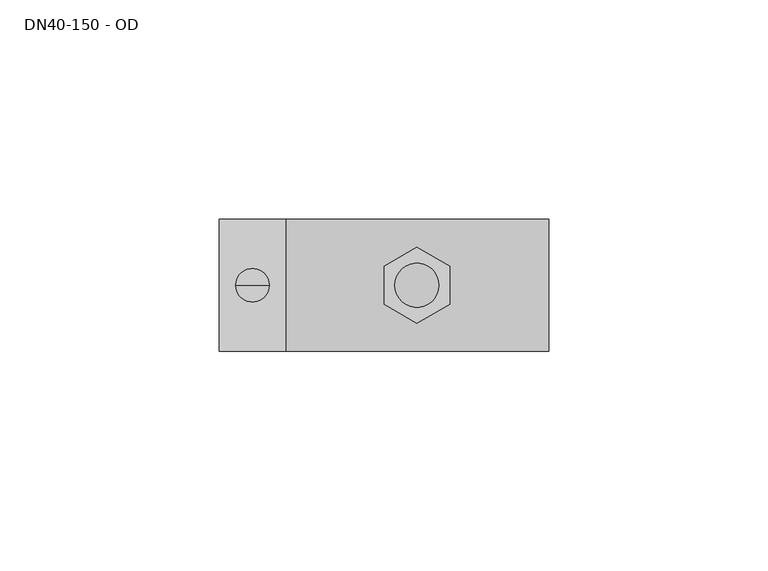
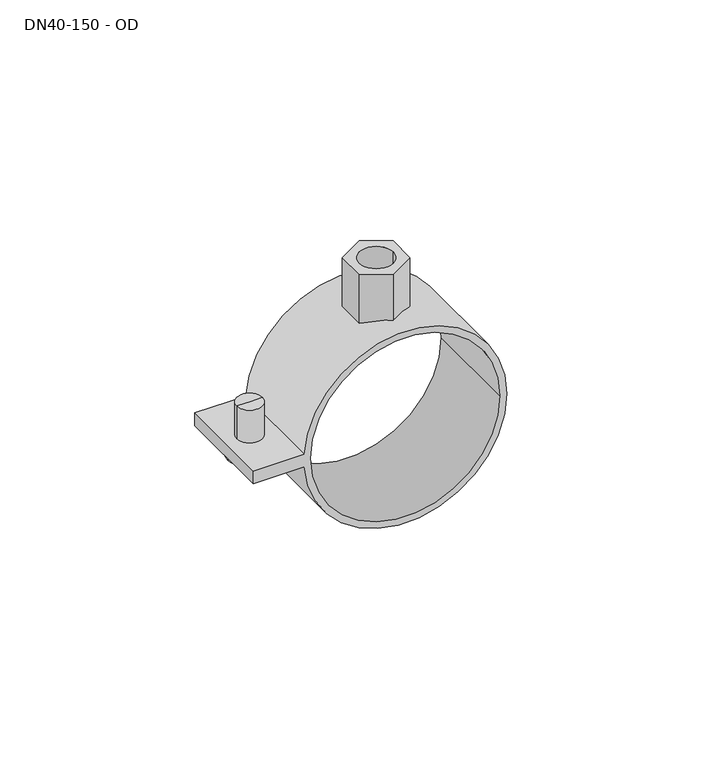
"""IFC4 building model written with IfcOpenShell, lengths in millimetres: unitary equipment geometry, NLRS_52_ME_UN_Geberit beugel met draadbus M10, verstelbaar_PRO_101657 : DN40-150 - OD."""

from ifc_helpers import new_model, si_unit, point, frame, origin, origin_2d, place, context, project, spatial, polyline, circle_curve, trimmed, segment, composite_curve, outline, extrude, source, transform, mapped, element, save
from ifc_brep_helpers import plane_surface, cylinder_surface, advanced_brep


def dn40_150_od_541becb6(model_context):
    return source(origin(), model_context, "Body", "SolidModel", [
        extrude(outline(polyline([(-7.5, -4.330127), (-7.5, 4.330127), (0.0, 8.660254), (7.5, 4.330127), (7.5, -4.330127), (0.0, -8.660254), (-7.5, -4.330127)]), holes=[composite_curve([segment(trimmed(circle_curve(origin_2d(), 5.0), [point((-5.0, 0.0))], [point((5.0, 0.0))], True, "CARTESIAN"), True, "CONTINUOUS"), segment(trimmed(circle_curve(origin_2d(), 5.0), [point((5.0, 0.0))], [point((-5.0, 0.0))], True, "CARTESIAN"), True, "CONTINUOUS")], self_intersect=False)]), frame((0.0, 0.0, 28.0), z_axis=(0.0, 0.0, 1.0), x_axis=(1.0, 0.0, 0.0)), (0.0, 0.0, 1.0), 16.0),
        advanced_brep(
        [(-33.7, 0.0, 12.0), (-41.3, 0.0, 12.0), (-37.5, 0.0, 12.0), (-33.7, 0.0, -2.0), (-41.3, 0.0, -2.0), (-31.0, 0.0, -2.0), (-44.0, 0.0, -2.0), (-31.0, 0.0, -4.0), (-44.0, 0.0, -4.0), (-37.5, 0.0, -4.0)],
        [
            (0, 1, circle_curve(frame((-37.5, 0.0, 12.0), z_axis=(0.0, 0.0, 1.0), x_axis=(-1.0, 0.0, 0.0)), 3.8)),
            (1, 2),
            (2, 0),
            (1, 0, circle_curve(frame((-37.5, 0.0, 12.0), z_axis=(0.0, 0.0, 1.0), x_axis=(-1.0, 0.0, 0.0)), 3.8)),
            (3, 4, circle_curve(frame((-37.5, 0.0, -2.0), z_axis=(0.0, 0.0, 1.0), x_axis=(-1.0, 0.0, 0.0)), 3.8)),
            (4, 1),
            (0, 3),
            (4, 3, circle_curve(frame((-37.5, 0.0, -2.0), z_axis=(0.0, 0.0, 1.0), x_axis=(-1.0, 0.0, 0.0)), 3.8)),
            (5, 6, circle_curve(frame((-37.5, 0.0, -2.0), z_axis=(0.0, 0.0, 1.0), x_axis=(-1.0, 0.0, 0.0)), 6.5)),
            (6, 4),
            (3, 5),
            (6, 5, circle_curve(frame((-37.5, 0.0, -2.0), z_axis=(0.0, 0.0, 1.0), x_axis=(-1.0, 0.0, 0.0)), 6.5)),
            (7, 8, circle_curve(frame((-37.5, 0.0, -4.0), z_axis=(0.0, 0.0, 1.0), x_axis=(-1.0, 0.0, 0.0)), 6.5)),
            (8, 6),
            (5, 7),
            (8, 7, circle_curve(frame((-37.5, 0.0, -4.0), z_axis=(0.0, 0.0, 1.0), x_axis=(-1.0, 0.0, 0.0)), 6.5)),
            (9, 8),
            (7, 9),
        ],
        [
            plane_surface(frame((-37.5, 0.0, 12.0), z_axis=(0.0, 0.0, 1.0), x_axis=(-1.0, 0.0, 0.0))),
            cylinder_surface(frame((-37.5, 0.0, 45.7821155), z_axis=(0.0, 0.0, -1.0), x_axis=(-1.0, 0.0, 0.0)), 3.8),
            plane_surface(frame((-37.5, 0.0, -2.0), z_axis=(0.0, 0.0, 1.0), x_axis=(-1.0, 0.0, 0.0))),
            cylinder_surface(frame((-37.5, 0.0, 45.7821155), z_axis=(0.0, 0.0, -1.0), x_axis=(-1.0, 0.0, 0.0)), 6.5),
            plane_surface(frame((-37.5, 0.0, -4.0), z_axis=(0.0, 0.0, -1.0), x_axis=(-1.0, 0.0, 0.0))),
        ],
        [
            (0, [[1, 2, 3]]),
            (0, [[4, -3, -2]]),
            (1, [[5, 6, -1, 7]]),
            (1, [[8, -7, -4, -6]]),
            (2, [[9, 10, -5, 11]]),
            (2, [[12, -11, -8, -10]]),
            (3, [[13, 14, -9, 15]]),
            (3, [[16, -15, -12, -14]]),
            (4, [[17, -13, 18]]),
            (4, [[-18, -16, -17]]),
        ],
    ),
        extrude(outline(composite_curve([segment(polyline([(2.0, -29.9332591), (2.0, -45.0), (-2.0, -45.0), (-2.0, -29.9332591)]), True, "CONTINUOUS"), segment(trimmed(circle_curve(origin_2d(), 30.0), [point((-2.0, -29.9332591))], [point((0.0, 30.0))], False, "CARTESIAN"), True, "CONTINUOUS"), segment(trimmed(circle_curve(origin_2d(), 30.0), [point((0.0, 30.0))], [point((2.0, -29.9332591))], False, "CARTESIAN"), True, "CONTINUOUS")], self_intersect=False), holes=[composite_curve([segment(trimmed(circle_curve(origin_2d(), 28.0), [point((0.0, -28.0))], [point((0.0, 28.0))], True, "CARTESIAN"), True, "CONTINUOUS"), segment(trimmed(circle_curve(origin_2d(), 28.0), [point((0.0, 28.0))], [point((0.0, -28.0))], True, "CARTESIAN"), True, "CONTINUOUS")], self_intersect=False)]), frame((0.0, -15.0, 0.0), z_axis=(0.0, 1.0, 0.0), x_axis=(0.0, 0.0, 1.0)), (0.0, 0.0, 1.0), 30.0),
    ])


if __name__ == "__main__":
    model = new_model("IFC4")
    model_context = context("Model", 3, world=origin())
    ifc_project = project(units=[si_unit("LENGTHUNIT", "METRE", prefix="MILLI")], contexts=[model_context])
    site = spatial("IfcSite", under=ifc_project)
    building = spatial("IfcBuilding", under=site)
    placement = place(None, origin())
    dn40_150_od_shape = dn40_150_od_541becb6(model_context)
    element("IfcUnitaryEquipment", 1, ObjectType="NLRS_52_ME_UN_Geberit beugel met draadbus M10, verstelbaar_PRO_101657 : DN40-150 - OD", at=placement, inside=building, context=model_context, shape_type="MappedRepresentation", body=[
        mapped(dn40_150_od_shape, transform((0.0, 0.0, 0.0), x_axis=(1.0, 0.0, 0.0), y_axis=(0.0, 1.0, 0.0), z_axis=(0.0, 0.0, 1.0))),
    ])
    save(model, "model.ifc")
